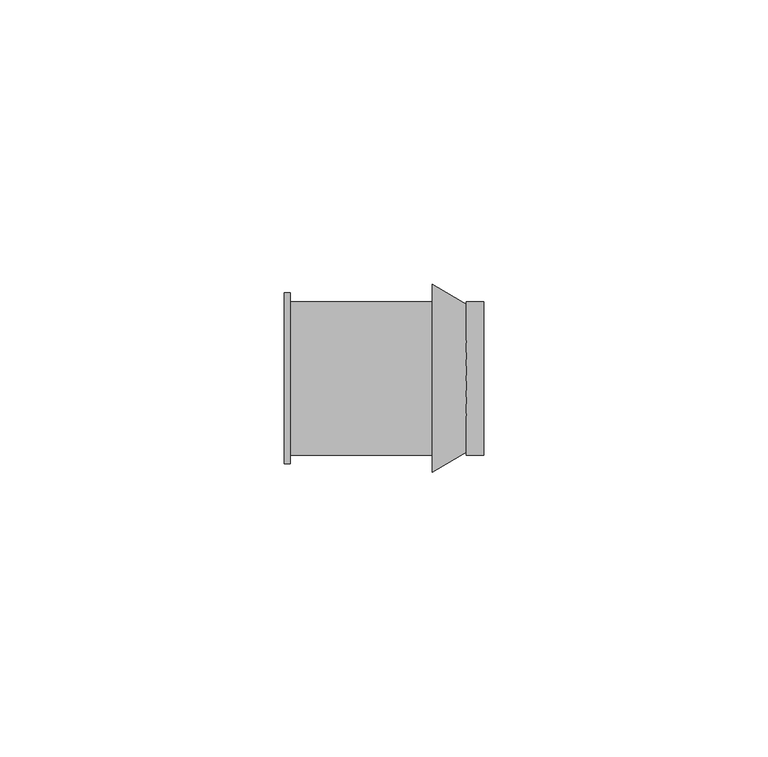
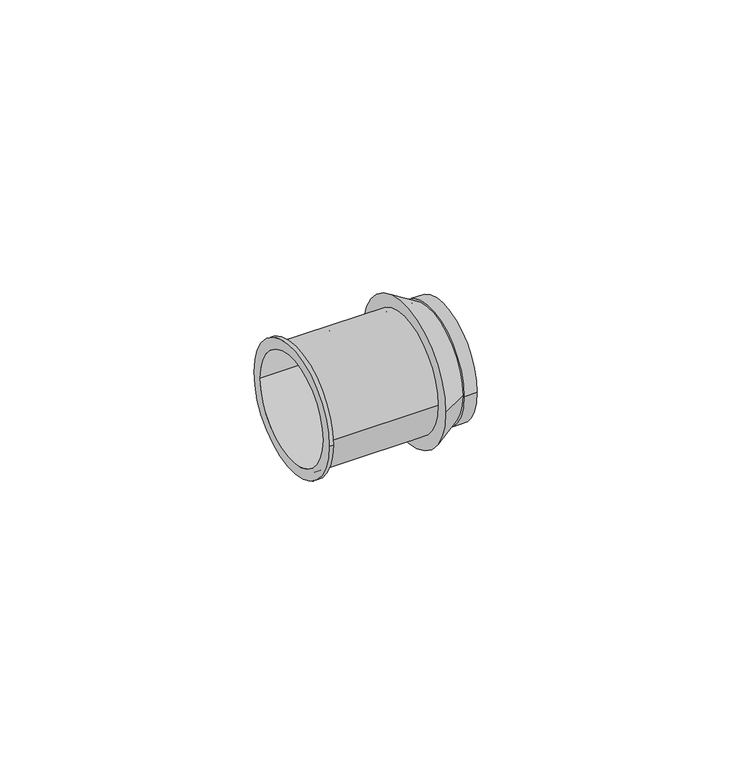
"""IFC4 building model written with IfcOpenShell, lengths in millimetres: pipe fitting geometry, SuperPipe_StopEnd_SPressPlus : SuperPipe_StopEnd_SPressPlus."""

import ifcopenshell
import ifcopenshell.guid

model = None  # the IFC model being written
_history = None  # IfcOwnerHistory: only IFC2X3 demands one
_inside = {}  # id of a spatial element -> (the spatial element, [elements in it])
_under = {}  # id of a project, library or spatial element -> (it, [spatial elements below it])
_declared = {}  # id of a project -> (the project, [libraries it declares])
_typed = {}  # id of a type object -> (the type object, [elements of that type])
_made_of = {}  # id of a material, layer set ... -> (it, [elements and type objects made of it])


def new_model(schema):
    """Start an empty IFC model of exactly this schema.

    Asked for "IFC4X3", IfcOpenShell would pick the latest addendum, in which some entities
    have other attributes; the version numbers below select the first issue.
    IFC2X3 requires an IfcOwnerHistory on every rooted entity: one is made here for all.
    """
    global model, _history
    if schema == "IFC4X3":
        model = ifcopenshell.file(schema_version=(4, 3, 0, 0))
    else:
        model = ifcopenshell.file(schema=schema)
    _inside.clear()
    _under.clear()
    _declared.clear()
    _typed.clear()
    _made_of.clear()
    _history = None
    if model.schema == "IFC2X3":
        org = make("IfcOrganization", Name="unknown")
        user = make(
            "IfcPersonAndOrganization",
            ThePerson=make("IfcPerson", FamilyName="unknown"),
            TheOrganization=org,
        )
        app = make(
            "IfcApplication",
            ApplicationDeveloper=org,
            Version="unknown",
            ApplicationFullName="unknown",
            ApplicationIdentifier="unknown",
        )
        _history = make(
            "IfcOwnerHistory",
            OwningUser=user,
            OwningApplication=app,
            ChangeAction="ADDED",
            CreationDate=0,
        )
    return model


def make(cls, **values):
    """One entity of the class cls with the attributes given. An attribute that is None is left unset."""
    return model.create_entity(
        cls, **{name: value for name, value in values.items() if value is not None}
    )


def rooted(cls, **values):
    """An entity with a GlobalId (a new one), such as an element, a storey or a relation."""
    return make(cls, GlobalId=ifcopenshell.guid.new(), OwnerHistory=_history, **values)


def si_unit(unit_type, name, prefix=None):
    """IfcSIUnit, for example si_unit("LENGTHUNIT", "METRE", prefix="MILLI")."""
    return make("IfcSIUnit", UnitType=unit_type, Prefix=prefix, Name=name)


def assignment(units):
    """IfcUnitAssignment: the units of a project."""
    return None if units is None else make("IfcUnitAssignment", Units=units)


def point(xyz):
    """IfcCartesianPoint."""
    return None if xyz is None else make("IfcCartesianPoint", Coordinates=xyz)


def direction(xyz):
    """IfcDirection."""
    return None if xyz is None else make("IfcDirection", DirectionRatios=xyz)


def frame(location, z_axis=None, x_axis=None):
    """IfcAxis2Placement3D, a coordinate frame: its origin and axes. An axis left out is left unset."""
    return make(
        "IfcAxis2Placement3D",
        Location=point(location),
        Axis=direction(z_axis),
        RefDirection=direction(x_axis),
    )


def frame_2d(location, x_axis=None):
    """IfcAxis2Placement2D, a coordinate frame in the plane: its origin and x axis."""
    return make(
        "IfcAxis2Placement2D", Location=point(location), RefDirection=direction(x_axis)
    )


def origin():
    """The frame at (0, 0, 0) with its axes left unset."""
    return frame((0.0, 0.0, 0.0))


def origin_2d():
    """The frame at (0, 0) in the plane with its x axis left unset."""
    return frame_2d((0.0, 0.0))


def place(relative_to, where):
    """IfcLocalPlacement: puts the frame where relative to a parent placement (None: the world)."""
    return make(
        "IfcLocalPlacement", PlacementRelTo=relative_to, RelativePlacement=where
    )


def context(
    kind, dimensions, precision=None, world=None, true_north=None, identifier=None
):
    """IfcGeometricRepresentationContext, for example the 3D "Model" context."""
    return make(
        "IfcGeometricRepresentationContext",
        ContextIdentifier=identifier,
        ContextType=kind,
        CoordinateSpaceDimension=dimensions,
        Precision=precision,
        WorldCoordinateSystem=world,
        TrueNorth=true_north,
    )


def project(units=None, contexts=None):
    """IfcProject with its units and contexts."""
    return rooted(
        "IfcProject",
        Name="project",
        RepresentationContexts=contexts,
        UnitsInContext=assignment(units),
    )


def spatial(cls, under=None, at=None, **own):
    """A site, building, storey or space (cls), placed at a placement, below another one or the project."""
    s = rooted(cls, ObjectPlacement=at, **own)
    if under is not None:
        _under.setdefault(under.id(), (under, []))[1].append(s)
    return s


def polyline(points):
    """IfcPolyline through the points."""
    return make("IfcPolyline", Points=[point(p) for p in points])


def circle_curve(where, radius):
    """IfcCircle in the frame where."""
    return make("IfcCircle", Position=where, Radius=radius)


def trimmed(basis, trim1, trim2, sense, master):
    """IfcTrimmedCurve: the piece of a basis curve between two trims."""
    return make(
        "IfcTrimmedCurve",
        BasisCurve=basis,
        Trim1=trim1,
        Trim2=trim2,
        SenseAgreement=sense,
        MasterRepresentation=master,
    )


def segment(curve, same_sense, transition):
    """IfcCompositeCurveSegment."""
    return make(
        "IfcCompositeCurveSegment",
        Transition=transition,
        SameSense=same_sense,
        ParentCurve=curve,
    )


def composite_curve(segments, self_intersect=None):
    """IfcCompositeCurve: segments joined end to end."""
    return make("IfcCompositeCurve", Segments=segments, SelfIntersect=self_intersect)


def outline(outer, holes=None, kind="AREA"):
    """IfcArbitraryClosedProfileDef: a profile drawn as a closed curve; with holes, ...WithVoids."""
    if holes is None:
        return make("IfcArbitraryClosedProfileDef", ProfileType=kind, OuterCurve=outer)
    return make(
        "IfcArbitraryProfileDefWithVoids",
        ProfileType=kind,
        OuterCurve=outer,
        InnerCurves=holes,
    )


def extrude(swept, where, along, depth):
    """IfcExtrudedAreaSolid: the profile swept, set in the frame where, extruded along a direction by depth."""
    return make(
        "IfcExtrudedAreaSolid",
        SweptArea=swept,
        Position=where,
        ExtrudedDirection=direction(along),
        Depth=depth,
    )


def shape(context_of_items, identifier, shape_type, items):
    """IfcShapeRepresentation: the items that make up one representation, for example the "Body"."""
    return make(
        "IfcShapeRepresentation",
        ContextOfItems=context_of_items,
        RepresentationIdentifier=identifier,
        RepresentationType=shape_type,
        Items=items,
    )


def source(mapping_origin, context_of_items, identifier, shape_type, items):
    """IfcRepresentationMap: a shape defined once, which mapped items show again and again."""
    return make(
        "IfcRepresentationMap",
        MappingOrigin=mapping_origin,
        MappedRepresentation=shape(context_of_items, identifier, shape_type, items),
    )


def transform(
    local_origin,
    x_axis=None,
    y_axis=None,
    z_axis=None,
    scale=None,
    scale2=None,
    scale3=None,
    uniform=True,
):
    """IfcCartesianTransformationOperator3D, or its non-uniform kind. x_axis, y_axis, z_axis: its Axis1, 2, 3."""
    if uniform:
        return make(
            "IfcCartesianTransformationOperator3D",
            Axis1=direction(x_axis),
            Axis2=direction(y_axis),
            LocalOrigin=point(local_origin),
            Scale=scale,
            Axis3=direction(z_axis),
        )
    return make(
        "IfcCartesianTransformationOperator3DnonUniform",
        Axis1=direction(x_axis),
        Axis2=direction(y_axis),
        LocalOrigin=point(local_origin),
        Scale=scale,
        Axis3=direction(z_axis),
        Scale2=scale2,
        Scale3=scale3,
    )


def mapped(mapping_source, mapping_target):
    """IfcMappedItem: shows the shape of a source again, moved by a transform."""
    return make(
        "IfcMappedItem", MappingSource=mapping_source, MappingTarget=mapping_target
    )


def made_of(thing, what):
    """Note that an element or type object is made of a material, layer set ...; save() writes the relation."""
    if what is not None:
        _made_of.setdefault(what.id(), (what, []))[1].append(thing)
    return thing


def element(
    cls,
    number,
    at=None,
    inside=None,
    cuts=None,
    type_object=None,
    material=None,
    context=None,
    identifier="Body",
    shape_type=None,
    held_by="IfcProductDefinitionShape",
    body=None,
    shapes=None,
    **own,
):
    """One element of the class cls, such as IfcWall. Its Tag is "e" and its number.

    at: its placement. inside: the storey or other place that contains it. cuts: it is an
    opening in that element (IfcRelVoidsElement). A single representation is given by context,
    identifier, shape_type and body (its items); several are given by shapes. held_by: the class
    of the entity that holds the representations. save() writes the other relations.
    """
    e = rooted(cls, Tag="e%d" % number, ObjectPlacement=at, **own)
    if body is not None:
        shapes = [shape(context, identifier, shape_type, body)]
    if shapes is not None:
        e.Representation = make(held_by, Representations=shapes)
    if inside is not None:
        _inside.setdefault(inside.id(), (inside, []))[1].append(e)
    if cuts is not None:
        rooted(
            "IfcRelVoidsElement", RelatingBuildingElement=cuts, RelatedOpeningElement=e
        )
    if type_object is not None:
        _typed.setdefault(type_object.id(), (type_object, []))[1].append(e)
    return made_of(e, material)


def aggregate(whole, parts):
    """IfcRelAggregates: a whole, such as a stair, and the parts it consists of."""
    return rooted("IfcRelAggregates", RelatingObject=whole, RelatedObjects=parts)


def save(model, path):
    """Write the relations noted so far, then the file.

    IfcRelAggregates (storeys below a building ...), IfcRelContainedInSpatialStructure (elements
    in a storey), IfcRelDefinesByType, IfcRelAssociatesMaterial and IfcRelDeclares: one each for
    every whole, place, type object, material and project.
    """
    for whole, parts in _under.values():
        aggregate(whole, parts)
    for where, things in _inside.values():
        rooted(
            "IfcRelContainedInSpatialStructure",
            RelatedElements=things,
            RelatingStructure=where,
        )
    for kind, things in _typed.values():
        rooted("IfcRelDefinesByType", RelatedObjects=things, RelatingType=kind)
    for what, things in _made_of.values():
        rooted("IfcRelAssociatesMaterial", RelatedObjects=things, RelatingMaterial=what)
    for by, libraries in _declared.values():
        rooted("IfcRelDeclares", RelatingContext=by, RelatedDefinitions=libraries)
    model.write(path)


def plane_surface(at):
    """IfcPlane: the flat surface through the origin of the frame at, square to its z axis."""
    return make("IfcPlane", Position=at)


def cylinder_surface(at, radius):
    """IfcCylindricalSurface: all points at the distance radius from the z axis of the frame at."""
    return make("IfcCylindricalSurface", Position=at, Radius=radius)


def revolved_surface(curve, axis_point, axis_direction):
    """IfcSurfaceOfRevolution: the curve turned about the line through axis_point along axis_direction."""
    return make(
        "IfcSurfaceOfRevolution",
        SweptCurve=make("IfcArbitraryOpenProfileDef", ProfileType="CURVE", Curve=curve),
        AxisPosition=make("IfcAxis1Placement", Location=point(axis_point), Axis=direction(axis_direction)),
    )


def advanced_brep(points, edges, surfaces, faces):
    """IfcAdvancedBrep: a solid bounded by faces that lie on surfaces and meet in shared edges.

    An edge is (start, end): straight between two places in points (the first is 0);
    or (start, end, curve); or (start, end, curve, False) where it runs against its curve.
    A face is (place in surfaces, loops), or (place, loops, False) where it looks against
    its surface's normal. A loop lists edges by number (the first is 1), with a minus sign
    where the edge is run from its end to its start. The first loop is the outer one.
    """
    corners = [point(p) for p in points]
    vertices = [make("IfcVertexPoint", VertexGeometry=c) for c in corners]
    made = []
    for start, end, *more in edges:
        made.append(
            make(
                "IfcEdgeCurve",
                EdgeStart=vertices[start],
                EdgeEnd=vertices[end],
                EdgeGeometry=more[0] if more else make("IfcPolyline", Points=[corners[start], corners[end]]),
                SameSense=more[1] if len(more) > 1 else True,
            )
        )
    hull = []
    for where, loops, *sense in faces:
        bounds = []
        for j, loop in enumerate(loops):
            ring = [make("IfcOrientedEdge", EdgeElement=made[abs(k) - 1], Orientation=k > 0) for k in loop]
            bounds.append(
                make(
                    "IfcFaceOuterBound" if j == 0 else "IfcFaceBound",
                    Bound=make("IfcEdgeLoop", EdgeList=ring),
                    Orientation=True,
                )
            )
        hull.append(make("IfcAdvancedFace", Bounds=bounds, FaceSurface=surfaces[where], SameSense=sense[0] if sense else True))
    return make("IfcAdvancedBrep", Outer=make("IfcClosedShell", CfsFaces=hull))


def pipe_fitting_da245ea1(model_context):
    return source(origin(), model_context, "Body", "SolidModel", [
        advanced_brep(
        [(-32.0, -15.0, 0.0), (-32.0, 15.0, 0.0), (-32.0, -12.5, 0.0), (-32.0, 12.5, 0.0), (-6.0, -13.5, 0.0), (-6.0, 13.5, 0.0), (-6.0, -12.5, 0.0), (-6.0, 12.5, 0.0), (-31.0, -12.5, 0.0), (-31.0, 12.5, 0.0), (-31.0, 13.5, 0.0), (-31.0, -13.5, 0.0), (-31.0, -15.0, 0.0), (-31.0, 15.0, 0.0)],
        [
            (0, 1, circle_curve(frame((-32.0, 0.0, 0.0), z_axis=(-1.0, 0.0, 0.0), x_axis=(0.0, 1.0, 0.0)), 15.0)),
            (1, 0, circle_curve(frame((-32.0, 0.0, 0.0), z_axis=(-1.0, 0.0, 0.0), x_axis=(0.0, 1.0, 0.0)), 15.0)),
            (2, 3, circle_curve(frame((-32.0, 0.0, 0.0), z_axis=(1.0, 0.0, 0.0), x_axis=(0.0, 1.0, 0.0)), 12.5)),
            (3, 2, circle_curve(frame((-32.0, 0.0, 0.0), z_axis=(1.0, 0.0, 0.0), x_axis=(0.0, 1.0, 0.0)), 12.5)),
            (4, 5, circle_curve(frame((-6.0, 0.0, 0.0), z_axis=(1.0, 0.0, 0.0), x_axis=(0.0, 1.0, 0.0)), 13.5)),
            (5, 4, circle_curve(frame((-6.0, 0.0, 0.0), z_axis=(1.0, 0.0, 0.0), x_axis=(0.0, 1.0, 0.0)), 13.5)),
            (6, 7, circle_curve(frame((-6.0, 0.0, 0.0), z_axis=(-1.0, 0.0, 0.0), x_axis=(0.0, 1.0, 0.0)), 12.5)),
            (7, 6, circle_curve(frame((-6.0, 0.0, 0.0), z_axis=(-1.0, 0.0, 0.0), x_axis=(0.0, 1.0, 0.0)), 12.5)),
            (2, 8),
            (8, 6),
            (7, 9),
            (9, 3),
            (5, 10),
            (10, 11, circle_curve(frame((-31.0, 0.0, 0.0), z_axis=(1.0, 0.0, 0.0), x_axis=(0.0, 1.0, 0.0)), 13.5)),
            (11, 4),
            (11, 10, circle_curve(frame((-31.0, 0.0, 0.0), z_axis=(1.0, 0.0, 0.0), x_axis=(0.0, 1.0, 0.0)), 13.5)),
            (12, 13, circle_curve(frame((-31.0, 0.0, 0.0), z_axis=(1.0, 0.0, 0.0), x_axis=(0.0, 1.0, 0.0)), 15.0)),
            (13, 12, circle_curve(frame((-31.0, 0.0, 0.0), z_axis=(1.0, 0.0, 0.0), x_axis=(0.0, 1.0, 0.0)), 15.0)),
            (0, 12),
            (13, 1),
        ],
        [
            plane_surface(frame((-32.0, 0.0, 0.0), z_axis=(-1.0, 0.0, 0.0), x_axis=(0.0, 0.0, 1.0))),
            plane_surface(frame((-6.0, 0.0, 0.0), z_axis=(1.0, 0.0, 0.0), x_axis=(0.0, 0.0, 1.0))),
            revolved_surface(polyline([(-6.0, 12.5, 0.0), (-32.0, 12.5, 0.0)]), (-32.0, 0.0, 0.0), (1.0, 0.0, 0.0)),
            cylinder_surface(frame((-32.0, 0.0, 0.0), z_axis=(-1.0, 0.0, 0.0), x_axis=(0.0, 1.0, 0.0)), 13.5),
            plane_surface(frame((-31.0, 0.0, 0.0), z_axis=(1.0, 0.0, 0.0), x_axis=(0.0, 0.0, 1.0))),
            cylinder_surface(frame((-32.0, 0.0, 0.0), z_axis=(-1.0, 0.0, 0.0), x_axis=(0.0, 1.0, 0.0)), 15.0),
        ],
        [
            (0, [[1, 2], [3, 4]]),
            (1, [[5, 6], [7, 8]]),
            (2, [[-3, 9, 10, -8, 11, 12]]),
            (2, [[-4, -12, -11, -7, -10, -9]]),
            (3, [[-6, 13, 14, 15]]),
            (3, [[-5, -15, 16, -13]]),
            (4, [[17, 18], [-14, -16]]),
            (5, [[-1, 19, -18, 20]]),
            (5, [[-2, -20, -17, -19]]),
        ],
    ),
        advanced_brep(
        [(0.0, -13.0, 0.0), (0.0, 13.0, 0.0), (0.0, 12.5, 0.0), (0.0, -12.5, 0.0), (-6.0, -16.5, 0.0), (-6.0, 16.5, 0.0), (-6.0, -12.5, 0.0), (-6.0, 12.5, 0.0)],
        [
            (0, 1, circle_curve(frame((0.0, 0.0, 0.0), z_axis=(1.0, 0.0, 0.0), x_axis=(0.0, -1.0, 0.0)), 13.0)),
            (1, 0, circle_curve(frame((0.0, 0.0, 0.0), z_axis=(1.0, 0.0, 0.0), x_axis=(0.0, 1.0, 0.0)), 13.0)),
            (2, 3, circle_curve(frame((0.0, 0.0, 0.0), z_axis=(-1.0, 0.0, 0.0), x_axis=(0.0, 1.0, 0.0)), 12.5)),
            (3, 2, circle_curve(frame((0.0, 0.0, 0.0), z_axis=(-1.0, 0.0, 0.0), x_axis=(0.0, 1.0, 0.0)), 12.5)),
            (4, 5, circle_curve(frame((-6.0, 0.0, 0.0), z_axis=(-1.0, 0.0, 0.0), x_axis=(0.0, 1.0, 0.0)), 16.5)),
            (5, 4, circle_curve(frame((-6.0, 0.0, 0.0), z_axis=(-1.0, 0.0, 0.0), x_axis=(0.0, -1.0, 0.0)), 16.5)),
            (6, 7, circle_curve(frame((-6.0, 0.0, 0.0), z_axis=(1.0, 0.0, 0.0), x_axis=(0.0, 1.0, 0.0)), 12.5)),
            (7, 6, circle_curve(frame((-6.0, 0.0, 0.0), z_axis=(1.0, 0.0, 0.0), x_axis=(0.0, 1.0, 0.0)), 12.5)),
            (0, 4),
            (5, 1),
            (2, 7),
            (6, 3),
        ],
        [
            plane_surface(frame((0.0, 0.0, 0.0), z_axis=(1.0, 0.0, 0.0), x_axis=(0.0, 0.0, -1.0))),
            plane_surface(frame((-6.0, 0.0, 0.0), z_axis=(-1.0, 0.0, 0.0), x_axis=(0.0, 0.0, -1.0))),
            revolved_surface(polyline([(0.0, -13.000000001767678, 0.0), (-6.0, -16.5, 0.0)]), (22.2857143, 0.0, 0.0), (-1.0, 0.0, 0.0)),
            revolved_surface(polyline([(0.0, 13.000000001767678, 0.0), (-6.0, 16.5, 0.0)]), (22.2857143, 0.0, 0.0), (-1.0, 0.0, 0.0)),
            revolved_surface(polyline([(0.0, 12.5, 0.0), (-6.0, 12.5, 0.0)]), (-6.0, 0.0, 0.0), (1.0, 0.0, 0.0)),
        ],
        [
            (0, [[1, 2], [3, 4]]),
            (1, [[5, 6], [7, 8]]),
            (2, [[-1, 9, -6, 10]]),
            (3, [[-2, -10, -5, -9]]),
            (4, [[11, -7, 12, -3]]),
            (4, [[-11, -4, -12, -8]]),
        ],
    ),
        extrude(outline(composite_curve([segment(trimmed(circle_curve(origin_2d(), 13.5), [point((-13.5, 0.0))], [point((13.5, 0.0))], False, "CARTESIAN"), True, "CONTINUOUS"), segment(trimmed(circle_curve(origin_2d(), 13.5), [point((13.5, 0.0))], [point((-13.5, 0.0))], False, "CARTESIAN"), True, "CONTINUOUS")], self_intersect=False)), frame((0.0, 0.0, 0.0), z_axis=(1.0, 0.0, 0.0), x_axis=(0.0, 1.0, 0.0)), (0.0, 0.0, 1.0), 3.0),
    ])


if __name__ == "__main__":
    model = new_model("IFC4")
    model_context = context("Model", 3, world=origin())
    ifc_project = project(units=[si_unit("LENGTHUNIT", "METRE", prefix="MILLI")], contexts=[model_context])
    site = spatial("IfcSite", under=ifc_project)
    building = spatial("IfcBuilding", under=site)
    placement = place(None, origin())
    pipe_fitting_shape = pipe_fitting_da245ea1(model_context)
    element("IfcPipeFitting", 1, ObjectType="SuperPipe_StopEnd_SPressPlus : SuperPipe_StopEnd_SPressPlus", at=placement, inside=building, context=model_context, shape_type="MappedRepresentation", body=[
        mapped(pipe_fitting_shape, transform((0.0, 0.0, 0.0), x_axis=(1.0, 0.0, 0.0), y_axis=(0.0, 1.0, 0.0), z_axis=(0.0, 0.0, 1.0))),
    ])
    save(model, "model.ifc")
